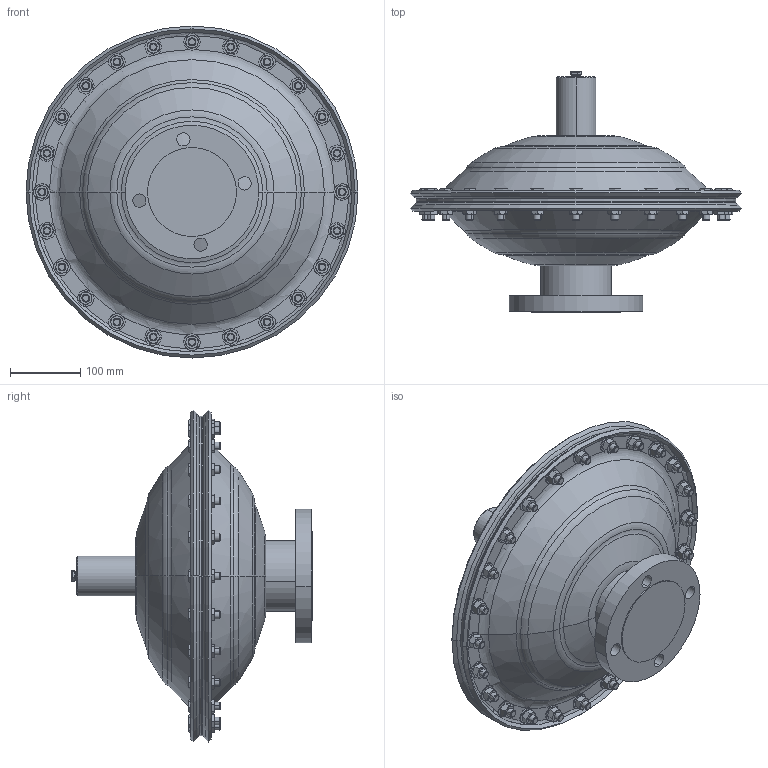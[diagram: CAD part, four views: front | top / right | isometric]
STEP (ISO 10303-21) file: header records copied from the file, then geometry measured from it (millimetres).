
FILE_DESCRIPTION (( 'STEP AP203' ), '1' );
FILE_NAME ('ISD1530.STEP', '2022-10-12T21:03:23', ( '' ), ( '' ), 'SwSTEP 2.0', 'SolidWorks 2019', '' );
FILE_SCHEMA (( 'CONFIG_CONTROL_DESIGN' ));
Length unit declared in the file: millimetre
Products named in the file (1): ISD1530
Bounding box: 473.72 x 343.38 x 473.72 mm (x, y, z)
Volume: 16034692.1 mm3; surface area: 645135.9 mm2
Topology: 45 solids, 45 shells, 1404 faces, 3132 edges, 1904 vertices
Faces by surface type: plane 529, cone 520, cylinder 304, torus 36, sphere 12, bspline 3
Entity records: 45970 total; most frequent: CARTESIAN_POINT 15562, DIRECTION 6277, ORIENTED_EDGE 6264, EDGE_CURVE 3132, AXIS2_PLACEMENT_3D 2727, VERTEX_POINT 1904, EDGE_LOOP 1586, FACE_OUTER_BOUND 1404
